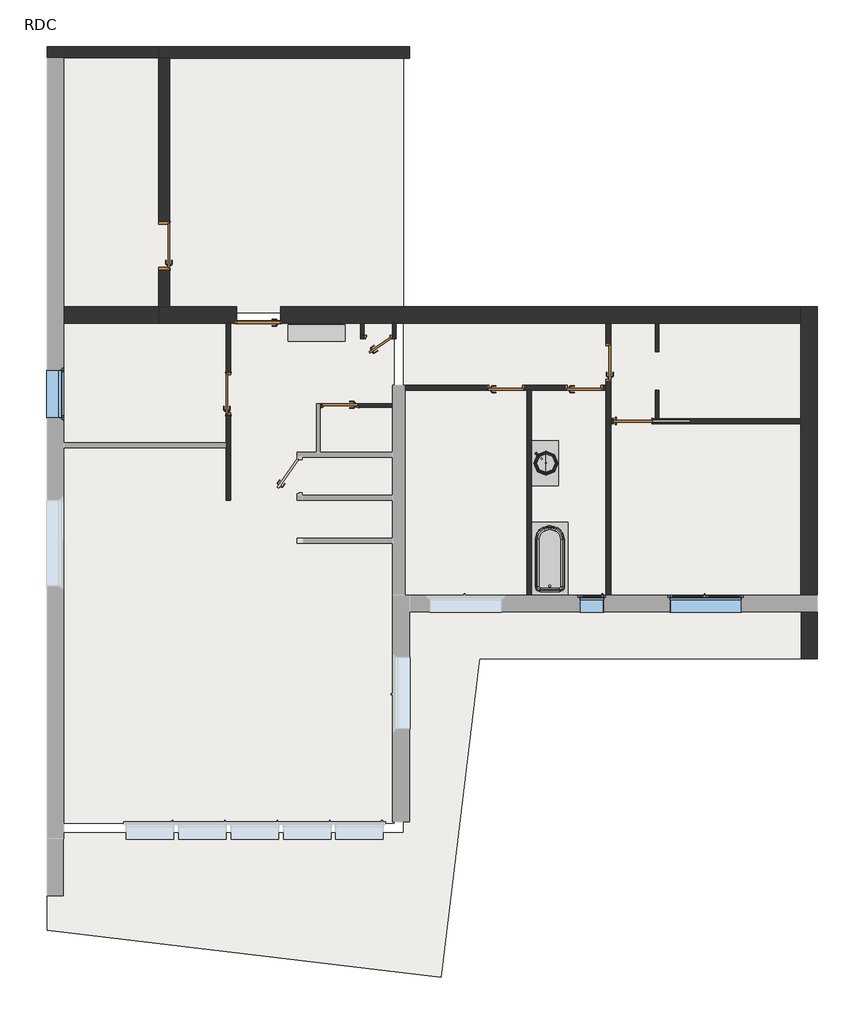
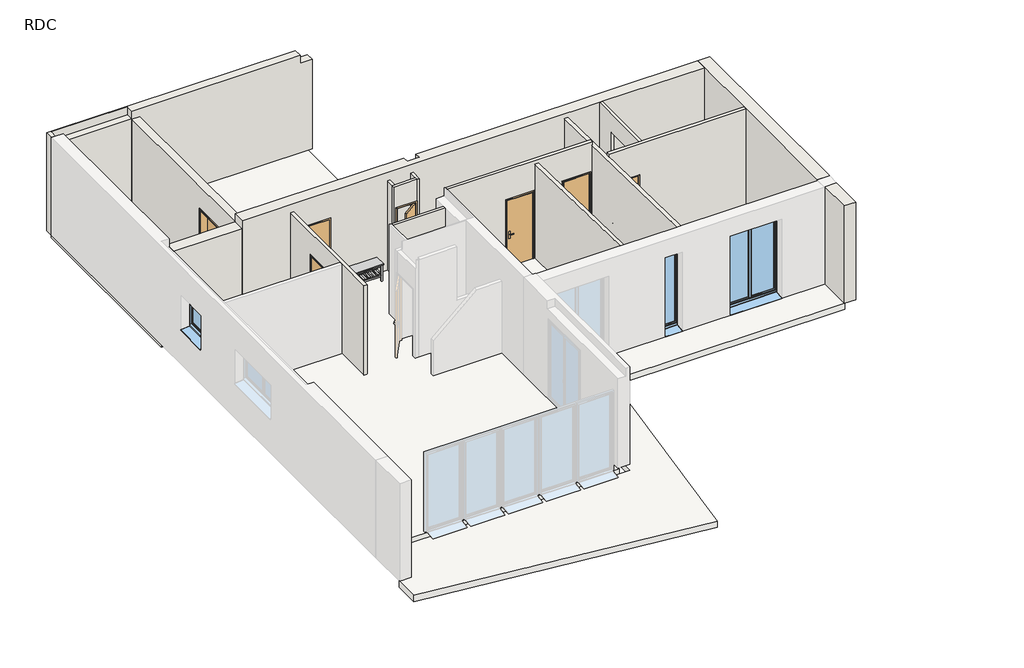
# One storey, part 2 of 2: 17 walls, 9 doors, 3 slabs, 3 windows, 2 flow terminals, 2 furniture elements.
"""IFC4 building model written with IfcOpenShell, lengths in millimetres."""

from ifc_helpers import new_model, si_unit, frame, origin, origin_with_axes, place, context, project, spatial, polyline, outline, extrude, faceted_brep, transform, mapped, element, save
from components import door_41a9e6d8, door_0_80m_x_2_04m_e0b4653d, int_simple_pp_0_53m_x_2_04m_9d17cb83, int_simple_pp_0_73m_x_2_04m_359deddd, int_simple_pp_0_73m_x_2_04m_ba43af2d, int_simple_pp_0_83m_x_2_04m_727c9c46, int_simple_pp_0_93m_x_2_04m_3c3404e0, flow_terminal_414a0167, baignoire_rectangulaire_mur_baignoire_rectangulaire_mur_52e2cdf1, furniture_1200_x_350_x_530_mm_359cf0c6, furniture_900mm_0b803dc7, window_0_50m_x_2_40m_2195513b, window_1_vantail_droit_1_00m_x_1_00m_58547b41, window_1_50m_x_2_40m_e69f112c

model = new_model("IFC4")

# Units and contexts
model_context = context("Model", 3, world=origin())
ifc_project = project(units=[si_unit("LENGTHUNIT", "METRE", prefix="MILLI")], contexts=[model_context])

# Site, building, storey
site = spatial("IfcSite", under=ifc_project)
building = spatial("IfcBuilding", under=site)
storey = spatial("IfcBuildingStorey", under=building, Name="RDC", Elevation=0.0)

# Doors
placement = place(None, origin())
door_shape = door_41a9e6d8(model_context)
element("IfcDoor", 1, ObjectType="Porte d'entrée : PP Lisse (0.90 m x 2.15 m)", at=placement, inside=storey, context=model_context, shape_type="MappedRepresentation", body=[
    mapped(door_shape, transform((-3541.697342, 2229.9574199, 0.0), x_axis=(-1.0, 0.0, 0.0), y_axis=(0.0, -1.0, 0.0), z_axis=(0.0, 0.0, 1.0))),
])
door_0_80m_x_2_04m_shape = door_0_80m_x_2_04m_e0b4653d(model_context)
element("IfcDoor", 2, ObjectType="Coulissante - Encastrée : 0.80m x 2.04m", at=placement, inside=storey, context=model_context, shape_type="MappedRepresentation", body=[
    mapped(door_0_80m_x_2_04m_shape, transform((4300.2977717, -3.0065065, 0.0), x_axis=(-1.0, 0.0, 0.0), y_axis=(0.0, -1.0, 0.0), z_axis=(0.0, 0.0, 1.0))),
])
int_simple_pp_0_53m_x_2_04m_shape = int_simple_pp_0_53m_x_2_04m_9d17cb83(model_context)
element("IfcDoor", 3, ObjectType="Int. Simple : PP (0.53m x 2.04m)", at=placement, inside=storey, context=model_context, shape_type="MappedRepresentation", body=[
    mapped(int_simple_pp_0_53m_x_2_04m_shape, transform((-983.697342, 1771.8961022, 0.0), x_axis=(1.0, 0.0, 0.0), y_axis=(0.0, 1.0, 0.0), z_axis=(0.0, 0.0, 1.0))),
])
int_simple_pp_0_73m_x_2_04m_shape = int_simple_pp_0_73m_x_2_04m_359deddd(model_context)
element("IfcDoor", 4, ObjectType="Int. Simple : PP (0.73m x 2.04m)", at=placement, inside=storey, context=model_context, shape_type="MappedRepresentation", body=[
    mapped(int_simple_pp_0_73m_x_2_04m_shape, transform((-1856.697342, 335.8961022, 0.0), x_axis=(-1.0, 0.0, 0.0), y_axis=(0.0, -1.0, 0.0), z_axis=(0.0, 0.0, 1.0))),
])
int_simple_pp_0_73m_x_2_04m_2_shape = int_simple_pp_0_73m_x_2_04m_ba43af2d(model_context)
element("IfcDoor", 5, ObjectType="Int. Simple : PP (0.73m x 2.04m)", at=placement, inside=storey, context=model_context, shape_type="MappedRepresentation", body=[
    mapped(int_simple_pp_0_73m_x_2_04m_2_shape, transform((1689.302658, 707.8961022, 0.0), x_axis=(1.0, 0.0, 0.0), y_axis=(0.0, 1.0, 0.0), z_axis=(0.0, 0.0, 1.0))),
])
element("IfcDoor", 6, ObjectType="Int. Simple : PP (0.73m x 2.04m)", at=placement, inside=storey, context=model_context, shape_type="MappedRepresentation", body=[
    mapped(int_simple_pp_0_73m_x_2_04m_2_shape, transform((3329.302658, 707.8961022, 0.0), x_axis=(1.0, 0.0, 0.0), y_axis=(0.0, 1.0, 0.0), z_axis=(0.0, 0.0, 1.0))),
])
element("IfcDoor", 7, ObjectType="Int. Simple : PP (0.73m x 2.04m)", at=placement, inside=storey, context=model_context, shape_type="MappedRepresentation", body=[
    mapped(int_simple_pp_0_73m_x_2_04m_2_shape, transform((3804.302658, 1272.8961022, 0.0), x_axis=(0.0, 1.0, 0.0), y_axis=(-1.0, 0.0, 0.0), z_axis=(0.0, 0.0, 1.0))),
])
int_simple_pp_0_83m_x_2_04m_shape = int_simple_pp_0_83m_x_2_04m_727c9c46(model_context)
element("IfcDoor", 8, ObjectType="Int. Simple : PP (0.83m x 2.04m)", at=placement, inside=storey, context=model_context, shape_type="MappedRepresentation", body=[
    mapped(int_simple_pp_0_83m_x_2_04m_shape, transform((-4161.697342, 614.9267611, 0.0), x_axis=(0.0, 1.0, 0.0), y_axis=(-1.0, 0.0, 0.0), z_axis=(0.0, 0.0, 1.0))),
])
int_simple_pp_0_93m_x_2_04m_shape = int_simple_pp_0_93m_x_2_04m_3c3404e0(model_context)
element("IfcDoor", 9, ObjectType="Int. Simple : PP (0.93m x 2.04m)", at=placement, inside=storey, context=model_context, shape_type="MappedRepresentation", body=[
    mapped(int_simple_pp_0_93m_x_2_04m_shape, transform((-5501.5193778, 3719.9574199, 0.0), x_axis=(0.0, 1.0, 0.0), y_axis=(-1.0, 0.0, 0.0), z_axis=(0.0, 0.0, 1.0))),
])

# Flow terminals
flow_terminal_shape = flow_terminal_414a0167(model_context)
element("IfcFlowTerminal", 10, ObjectType="Lavabo moderne : Lavabo moderne", at=placement, inside=storey, context=model_context, shape_type="MappedRepresentation", body=[
    mapped(flow_terminal_shape, transform((2194.302658, -893.8262703, 740.0), x_axis=(0.0, 1.0, 0.0), y_axis=(-1.0, 0.0, 0.0), z_axis=(0.0, 0.0, 1.0))),
])
baignoire_rectangulaire_mur_baignoire_rectangulaire_mur_shape = baignoire_rectangulaire_mur_baignoire_rectangulaire_mur_52e2cdf1(model_context)
element("IfcFlowTerminal", 11, ObjectType="Baignoire rectangulaire - Mur : Baignoire rectangulaire - Mur", at=placement, inside=storey, context=model_context, shape_type="MappedRepresentation", body=[
    mapped(baignoire_rectangulaire_mur_baignoire_rectangulaire_mur_shape, transform((2144.302658, -2524.4396113, 0.0), x_axis=(0.0, 1.0, 0.0), y_axis=(-1.0, 0.0, 0.0), z_axis=(0.0, 0.0, 1.0))),
])

# Furniture
furniture_1200_x_350_x_530_mm_shape = furniture_1200_x_350_x_530_mm_359cf0c6(model_context)
element("IfcFurniture", 12, ObjectType="Banc : 1200 x 350 x 530 mm", at=placement, inside=storey, context=model_context, shape_type="MappedRepresentation", body=[
    mapped(furniture_1200_x_350_x_530_mm_shape, transform((-2313.697342, 2039.796778, 0.0), x_axis=(1.0, 0.0, 0.0), y_axis=(0.0, 1.0, 0.0), z_axis=(0.0, 0.0, 1.0))),
])
furniture_900mm_shape = furniture_900mm_0b803dc7(model_context)
element("IfcFurniture", 13, ObjectType="Meuble sous lavabo - Porte simple et 2 tiroirs : 900mm", at=placement, inside=storey, context=model_context, shape_type="MappedRepresentation", body=[
    mapped(furniture_900mm_shape, transform((2194.302658, -963.9141086, 0.0), x_axis=(0.0, 1.0, 0.0), y_axis=(-1.0, 0.0, 0.0), z_axis=(0.0, 0.0, 1.0))),
])

# Slabs
element("IfcSlab", 14, ObjectType="Dalle en béton + Isolant", at=placement, inside=storey, context=model_context, shape_type="SweptSolid", body=[
    extrude(outline(polyline([(7863.302658, -3665.0425801), (-486.697342, -3665.0425801), (-486.697342, 2084.9574199), (7863.302658, 2084.9574199), (7863.302658, -3665.0425801)])), frame((0.0, 0.0, -360.0), z_axis=(0.0, 0.0, 1.0), x_axis=(1.0, 0.0, 0.0)), (0.0, 0.0, 1.0), 360.0),
    extrude(outline(polyline([(-7636.697342, -8415.0425801), (-7636.697342, 2084.9574199), (-686.697342, 2084.9574199), (-686.697342, -8415.0425801), (-7636.697342, -8415.0425801)])), frame((0.0, 0.0, -360.0), z_axis=(0.0, 0.0, 1.0), x_axis=(1.0, 0.0, 0.0)), (0.0, 0.0, 1.0), 360.0),
])
element("IfcSlab", 15, ObjectType="Dalle en béton", at=placement, inside=storey, context=model_context, shape_type="Brep", body=[
    faceted_brep([(-486.697342, 7834.9574199, -250.0), (-486.697342, 2284.9574199, -250.0), (-686.697342, 2284.9574199, -250.0), (-7636.697342, 2284.9574199, -250.0), (-7836.697342, 2284.9574199, -250.0), (-7836.697342, 7834.9574199, -250.0), (-7636.697342, 7834.9574199, -250.0), (-686.697342, 7834.9574199, -250.0), (-486.697342, 7834.9574199, 0.0), (-7836.697342, 7834.9574199, 0.0), (-7836.697342, 2284.9574199, 0.0), (-7636.697342, 2284.9574199, 0.0), (-686.697342, 2284.9574199, 0.0), (-486.697342, 2284.9574199, 0.0)], [[[0, 1, 2, 3, 4, 5, 6, 7]], [[8, 9, 10, 11, 12, 13]], [[1, 0, 8, 13]], [[4, 3, 2, 1, 13, 12, 11, 10]], [[5, 4, 10, 9]], [[0, 7, 6, 5, 9, 8]]]),
])
element("IfcSlab", 16, ObjectType="Terrasse", at=placement, inside=storey, context=model_context, shape_type="SweptSolid", body=[
    extrude(outline(polyline([(7863.302658, -3865.0425801), (7863.302658, -4967.1038978), (1099.5646631, -4967.1038978), (296.1534738, -11641.8526297), (-7957.697342, -10648.3716214), (-7957.697342, -9912.1038978), (-7636.697342, -9912.1038978), (-7636.697342, -8615.0425801), (-486.697342, -8615.0425801), (-486.697342, -3865.0425801), (7863.302658, -3865.0425801)])), frame((0.0, 0.0, -190.0), z_axis=(0.0, 0.0, 1.0), x_axis=(1.0, 0.0, 0.0)), (0.0, 0.0, 1.0), 190.0),
])

# Walls
element("IfcWall", 17, ObjectType="Ext. Bardage Bois + Isolant + Béton + Finition", at=placement, inside=storey, context=model_context, shape_type="Brep", body=[
    faceted_brep([(8183.302658, -3635.0425801, 0.0), (8183.302658, 2404.9574199, 0.0), (8183.302658, 2404.9574199, 3000.0), (8183.302658, -3635.0425801, 3000.0), (7833.302658, -3635.0425801, 0.0), (7833.302658, -3635.0425801, 2975.3587736), (7833.302658, -3635.0425801, 3000.0), (7833.302658, -40.1038978, 3000.0), (7833.302658, 59.8961022, 3000.0), (7833.302658, 2054.9574199, 3000.0), (7833.302658, 2404.9574199, 3000.0), (7833.302658, 2404.9574199, 0.0), (7833.302658, 2054.9574199, 0.0), (7833.302658, 59.8961022, 0.0), (7833.302658, -40.1038978, 0.0)], [[[0, 1, 2, 3]], [[4, 5, 6, 7, 8, 9, 10, 11, 12, 13, 14]], [[1, 0, 4, 14, 13, 12, 11]], [[3, 2, 10, 9, 8, 7, 6]], [[0, 3, 6, 5, 4]], [[2, 1, 11, 10]]]),
])
element("IfcWall", 18, ObjectType="Ext. Bardage Bois + Isolant + Béton + Finition", at=placement, inside=storey, context=model_context, shape_type="Brep", body=[
    faceted_brep([(7833.302658, 2404.9574199, 3000.0), (7833.302658, 2404.9574199, 0.0), (-3071.697342, 2404.9574199, 0.0), (-3071.697342, 2404.9574199, 2160.0), (-3991.697342, 2404.9574199, 2160.0), (-3991.697342, 2404.9574199, 0.0), (-5386.5193778, 2404.9574199, 0.0), (-5616.5193778, 2404.9574199, 0.0), (-5616.5193778, 2404.9574199, 2750.0), (-5616.5193778, 2404.9574199, 3000.0), (-716.697342, 2404.9574199, 3000.0), (-716.697342, 2404.9574199, 2750.0), (-366.697342, 2404.9574199, 2750.0), (-366.697342, 2404.9574199, 3000.0), (7833.302658, 2054.9574199, 3000.0), (4856.302658, 2054.9574199, 3000.0), (4784.302658, 2054.9574199, 3000.0), (-366.697342, 2054.9574199, 3000.0), (-5616.5193778, 2054.9574199, 3000.0), (-5616.5193778, 2054.9574199, 2750.0), (-5616.5193778, 2054.9574199, 0.0), (-4211.697342, 2054.9574199, 0.0), (-4111.697342, 2054.9574199, 0.0), (-4021.697342, 2054.9574199, 0.0), (-4021.697342, 2054.9574199, 2190.0), (-3041.697342, 2054.9574199, 2190.0), (-3041.697342, 2054.9574199, 0.0), (-1392.697342, 2054.9574199, 0.0), (-1320.697342, 2054.9574199, 0.0), (-716.697342, 2054.9574199, 0.0), (-644.697342, 2054.9574199, 0.0), (3754.302658, 2054.9574199, 0.0), (3854.302658, 2054.9574199, 0.0), (4784.302658, 2054.9574199, 0.0), (4856.302658, 2054.9574199, 0.0), (7833.302658, 2054.9574199, 0.0), (-3041.697342, 2111.9574199, 0.0), (-3056.697342, 2111.9574199, 0.0), (-3056.697342, 2154.9574199, 0.0), (-3071.697342, 2154.9574199, 0.0), (-3991.697342, 2154.9574199, 0.0), (-4006.697342, 2154.9574199, 0.0), (-4006.697342, 2111.9574199, 0.0), (-4021.697342, 2111.9574199, 0.0), (-366.697342, 2229.9574199, 3000.0), (-716.697342, 2229.9574199, 3000.0), (-366.697342, 2229.9574199, 2750.0), (-716.697342, 2229.9574199, 2750.0), (-716.697342, 2284.9574199, 2750.0), (-486.697342, 2229.9574199, 2750.0), (-3071.697342, 2154.9574199, 2160.0), (-3991.697342, 2154.9574199, 2160.0), (-4006.697342, 2111.9574199, 2175.0), (-3056.697342, 2111.9574199, 2175.0), (-3041.697342, 2111.9574199, 2190.0), (-4021.697342, 2111.9574199, 2190.0), (-3056.697342, 2154.9574199, 2175.0), (-4006.697342, 2154.9574199, 2175.0)], [[[0, 1, 2, 3, 4, 5, 6, 7, 8, 9, 10, 11, 12, 13]], [[14, 15, 16, 17, 18, 19, 20, 21, 22, 23, 24, 25, 26, 27, 28, 29, 30, 31, 32, 33, 34, 35]], [[1, 35, 34, 33, 32, 31, 30, 29, 28, 27, 26, 36, 37, 38, 39, 2]], [[20, 7, 6, 5, 40, 41, 42, 43, 23, 22, 21]], [[18, 17, 16, 15, 14, 0, 13, 44, 45, 10, 9]], [[1, 0, 14, 35]], [[9, 8, 7, 20, 19, 18]], [[12, 46, 44, 13]], [[47, 48, 11, 10, 45]], [[47, 49, 46, 12, 11, 48]], [[50, 51, 4, 3]], [[51, 40, 5, 4]], [[39, 50, 3, 2]], [[42, 52, 53, 37, 36, 54, 55, 43]], [[54, 36, 26, 25]], [[55, 54, 25, 24]], [[43, 55, 24, 23]], [[37, 53, 56, 38]], [[51, 50, 39, 38, 56, 57, 41, 40]], [[53, 52, 57, 56]], [[52, 42, 41, 57]], [[46, 49, 47, 45, 44]]]),
])
element("IfcWall", 19, ObjectType="Int. Plâtre 100 mm", at=placement, inside=storey, context=model_context, shape_type="Brep", body=[
    faceted_brep([(-4111.697342, -1645.1038978, 2750.0), (-4111.697342, -1645.1038978, 0.0), (-4111.697342, 129.9267611, 0.0), (-4111.697342, 129.9267611, 2075.0), (-4111.697342, 1029.9267611, 2075.0), (-4111.697342, 1029.9267611, 0.0), (-4111.697342, 2054.9574199, 0.0), (-4111.697342, 2054.9574199, 2750.0), (-4211.697342, -1645.1038978, 0.0), (-4211.697342, -1645.1038978, 2750.0), (-4211.697342, -545.0425801, 2750.0), (-4211.697342, -445.0425801, 2750.0), (-4211.697342, 2054.9574199, 2750.0), (-4211.697342, 2054.9574199, 0.0), (-4211.697342, 1029.9267611, 0.0), (-4211.697342, 1029.9267611, 2075.0), (-4211.697342, 129.9267611, 2075.0), (-4211.697342, 129.9267611, 0.0), (-4211.697342, -445.0425801, 0.0), (-4211.697342, -545.0425801, 0.0)], [[[0, 1, 2, 3, 4, 5, 6, 7]], [[8, 9, 10, 11, 12, 13, 14, 15, 16, 17, 18, 19]], [[1, 8, 19, 18, 17, 2]], [[13, 6, 5, 14]], [[1, 0, 9, 8]], [[7, 6, 13, 12]], [[0, 7, 12, 11, 10, 9]], [[4, 15, 14, 5]], [[15, 4, 3, 16]], [[16, 3, 2, 17]]]),
])
element("IfcWall", 20, ObjectType="Int. Plâtre 100 mm", at=placement, inside=storey, context=model_context, shape_type="Brep", body=[
    faceted_brep([(3754.302658, 657.8961022, 3000.0), (-456.697342, 657.8961022, 3000.0), (-456.697342, 657.8961022, 0.0), (1254.302658, 657.8961022, 0.0), (1254.302658, 657.8961022, 2075.0), (2054.302658, 657.8961022, 2075.0), (2054.302658, 657.8961022, 0.0), (2094.302658, 657.8961022, 0.0), (2194.302658, 657.8961022, 0.0), (2894.302658, 657.8961022, 0.0), (2894.302658, 657.8961022, 2075.0), (3694.302658, 657.8961022, 2075.0), (3694.302658, 657.8961022, 0.0), (3754.302658, 657.8961022, 0.0), (-456.697342, 757.8961022, 3000.0), (3754.302658, 757.8961022, 3000.0), (3754.302658, 757.8961022, 0.0), (3694.302658, 757.8961022, 0.0), (3694.302658, 757.8961022, 2075.0), (2894.302658, 757.8961022, 2075.0), (2894.302658, 757.8961022, 0.0), (2054.302658, 757.8961022, 0.0), (2054.302658, 757.8961022, 2075.0), (1254.302658, 757.8961022, 2075.0), (1254.302658, 757.8961022, 0.0), (-456.697342, 757.8961022, 0.0)], [[[0, 1, 2, 3, 4, 5, 6, 7, 8, 9, 10, 11, 12, 13]], [[14, 15, 16, 17, 18, 19, 20, 21, 22, 23, 24, 25]], [[16, 13, 12, 17]], [[2, 25, 24, 3]], [[6, 21, 20, 9, 8, 7]], [[1, 0, 15, 14]], [[0, 13, 16, 15]], [[2, 1, 14, 25]], [[5, 22, 21, 6]], [[22, 5, 4, 23]], [[23, 4, 3, 24]], [[11, 18, 17, 12]], [[18, 11, 10, 19]], [[19, 10, 9, 20]]]),
])
element("IfcWall", 21, ObjectType="Int. Plâtre 100 mm", at=placement, inside=storey, context=model_context, shape_type="Brep", body=[
    faceted_brep([(3754.302658, -3635.0425801, 0.0), (3754.302658, -3635.0425801, 35.0), (3754.302658, -3635.0425801, 2485.0), (3754.302658, -3635.0425801, 2975.3587736), (3754.302658, 2054.9574199, 2861.5587736), (3754.302658, 2054.9574199, 0.0), (3754.302658, 1637.8961022, 0.0), (3754.302658, 1637.8961022, 2075.0), (3754.302658, 837.8961022, 2075.0), (3754.302658, 837.8961022, 0.0), (3754.302658, 757.8961022, 0.0), (3754.302658, 657.8961022, 0.0), (3854.302658, -3635.0425801, 2975.3587736), (3854.302658, -3635.0425801, 0.0), (3854.302658, -40.1038978, 0.0), (3854.302658, 59.8961022, 0.0), (3854.302658, 837.8961022, 0.0), (3854.302658, 837.8961022, 2075.0), (3854.302658, 1637.8961022, 2075.0), (3854.302658, 1637.8961022, 0.0), (3854.302658, 2054.9574199, 0.0), (3854.302658, 2054.9574199, 2861.5587736)], [[[0, 1, 2, 3, 4, 5, 6, 7, 8, 9, 10, 11]], [[12, 13, 14, 15, 16, 17, 18, 19, 20, 21]], [[5, 20, 19, 6]], [[13, 0, 11, 10, 9, 16, 15, 14]], [[3, 2, 1, 0, 13, 12]], [[5, 4, 21, 20]], [[18, 7, 6, 19]], [[7, 18, 17, 8]], [[8, 17, 16, 9]], [[4, 3, 12, 21]]]),
])
element("IfcWall", 22, ObjectType="Int. Plâtre 100 mm", at=placement, inside=storey, context=model_context, shape_type="Brep", body=[
    faceted_brep([(3854.302658, 59.8961022, 3000.0), (4784.302658, 59.8961022, 3000.0), (4856.302658, 59.8961022, 3000.0), (7833.302658, 59.8961022, 3000.0), (7833.302658, 59.8961022, 0.0), (4856.302658, 59.8961022, 0.0), (4784.302658, 59.8961022, 0.0), (4724.302658, 59.8961022, 0.0), (4724.302658, 59.8961022, 2055.0), (3894.302658, 59.8961022, 2055.0), (3894.302658, 59.8961022, 0.0), (3854.302658, 59.8961022, 0.0), (7833.302658, -40.1038978, 3000.0), (3854.302658, -40.1038978, 3000.0), (3854.302658, -40.1038978, 0.0), (3894.302658, -40.1038978, 0.0), (3894.302658, -40.1038978, 2055.0), (4724.302658, -40.1038978, 2055.0), (4724.302658, -40.1038978, 0.0), (7833.302658, -40.1038978, 0.0), (4724.302658, -15.1038978, 0.0), (5524.302658, -15.1038978, 0.0), (5524.302658, 34.8961022, 0.0), (4724.302658, 34.8961022, 0.0), (4724.302658, 34.8961022, 2055.0), (5524.302658, 34.8961022, 2055.0), (5524.302658, -15.1038978, 2055.0), (4724.302658, -15.1038978, 2055.0)], [[[0, 1, 2, 3, 4, 5, 6, 7, 8, 9, 10, 11]], [[12, 13, 14, 15, 16, 17, 18, 19]], [[4, 19, 18, 20, 21, 22, 23, 7, 6, 5]], [[14, 11, 10, 15]], [[3, 2, 1, 0, 13, 12]], [[4, 3, 12, 19]], [[0, 11, 14, 13]], [[24, 25, 26, 27, 17, 16, 9, 8]], [[9, 16, 15, 10]], [[23, 24, 8, 7]], [[25, 24, 23, 22]], [[26, 25, 22, 21]], [[27, 26, 21, 20]], [[27, 20, 18, 17]]]),
])
element("IfcWall", 23, ObjectType="Int. Plâtre 100 mm", at=placement, inside=storey, context=model_context, shape_type="SweptSolid", body=[
    extrude(outline(polyline([(657.8961022, 0.0), (-3635.0425801, 0.0), (-3635.0425801, 2975.3587736), (657.8961022, 2889.5), (657.8961022, 0.0)])), frame((2094.302658, 0.0, 0.0), z_axis=(1.0, 0.0, 0.0), x_axis=(0.0, 1.0, 0.0)), (0.0, 0.0, 1.0), 100.0),
])
element("IfcWall", 24, ObjectType="Int. Plâtre 70 mm", at=placement, inside=storey, context=model_context, shape_type="SweptSolid", body=[
    extrude(outline(polyline([(2750.0, -2241.697342), (0.0, -2241.697342), (0.0, -2221.697342), (2075.0, -2221.697342), (2075.0, -1421.697342), (0.0, -1421.697342), (0.0, -716.697342), (2750.0, -716.697342), (2750.0, -2241.697342)])), frame((0.0, 299.8961022, 0.0), z_axis=(0.0, 1.0, 0.0), x_axis=(0.0, 0.0, 1.0)), (0.0, 0.0, 1.0), 72.0),
])
element("IfcWall", 25, ObjectType="Int. Plâtre 70 mm", at=placement, inside=storey, context=model_context, shape_type="SweptSolid", body=[
    extrude(outline(polyline([(59.8961022, 0.0), (59.8961022, 3000.0), (2054.9574199, 3000.0), (2054.9574199, 0.0), (1463.4416882, 0.0), (1463.4416882, 2438.4), (659.8961022, 2438.4), (659.8961022, 0.0), (59.8961022, 0.0)])), frame((4784.302658, 0.0, 0.0), z_axis=(1.0, 0.0, 0.0), x_axis=(0.0, 1.0, 0.0)), (0.0, 0.0, 1.0), 72.0),
])
element("IfcWall", 26, ObjectType="Int. Plâtre 70 mm", at=placement, inside=storey, context=model_context, shape_type="Brep", body=[
    faceted_brep([(-716.697342, 2054.9574199, 0.0), (-716.697342, 1807.8961022, 0.0), (-716.697342, 1735.8961022, 0.0), (-716.697342, 1735.8961022, 2750.0), (-716.697342, 1807.8961022, 2750.0), (-716.697342, 2054.9574199, 2750.0), (-644.697342, 2054.9574199, 0.0), (-644.697342, 2054.9574199, 2750.0), (-644.697342, 1735.8961022, 2750.0), (-644.697342, 1735.8961022, 0.0)], [[[0, 1, 2, 3, 4, 5]], [[6, 7, 8, 9]], [[2, 1, 0, 6, 9]], [[0, 5, 7, 6]], [[3, 2, 9, 8]], [[5, 4, 3, 8, 7]]]),
])
element("IfcWall", 27, ObjectType="Int. Plâtre 70 mm", at=placement, inside=storey, context=model_context, shape_type="Brep", body=[
    faceted_brep([(-716.697342, 1807.8961022, 2750.0), (-716.697342, 1807.8961022, 0.0), (-718.697342, 1807.8961022, 0.0), (-718.697342, 1807.8961022, 2075.0), (-1318.697342, 1807.8961022, 2075.0), (-1318.697342, 1807.8961022, 0.0), (-1320.697342, 1807.8961022, 0.0), (-1392.697342, 1807.8961022, 0.0), (-1392.697342, 1807.8961022, 2750.0), (-1320.697342, 1807.8961022, 2750.0), (-716.697342, 1735.8961022, 0.0), (-716.697342, 1735.8961022, 2750.0), (-1392.697342, 1735.8961022, 2750.0), (-1392.697342, 1735.8961022, 0.0), (-1318.697342, 1735.8961022, 0.0), (-1318.697342, 1735.8961022, 2075.0), (-718.697342, 1735.8961022, 2075.0), (-718.697342, 1735.8961022, 0.0)], [[[0, 1, 2, 3, 4, 5, 6, 7, 8, 9]], [[10, 11, 12, 13, 14, 15, 16, 17]], [[1, 10, 17, 2]], [[13, 7, 6, 5, 14]], [[1, 0, 11, 10]], [[8, 7, 13, 12]], [[0, 9, 8, 12, 11]], [[16, 3, 2, 17]], [[3, 16, 15, 4]], [[4, 15, 14, 5]]]),
])
element("IfcWall", 28, ObjectType="Int. Plâtre 70 mm", at=placement, inside=storey, context=model_context, shape_type="SweptSolid", body=[
    extrude(outline(polyline([(-1320.697342, 2054.9574199), (-1320.697342, 1807.8961022), (-1392.697342, 1807.8961022), (-1392.697342, 2054.9574199), (-1320.697342, 2054.9574199)])), origin_with_axes(), (0.0, 0.0, 1.0), 2750.0),
])
element("IfcWall", 29, ObjectType="Ext. Bardage Métal + Béton + Finition", at=placement, inside=storey, context=model_context, shape_type="SweptSolid", body=[
    extrude(outline(polyline([(7614.9574199, 0.0), (4184.9574199, 0.0), (4184.9574199, 2075.0), (3184.9574199, 2075.0), (3184.9574199, 0.0), (2404.9574199, 0.0), (2404.9574199, 2750.0), (7614.9574199, 2750.0), (7614.9574199, 0.0)])), frame((-5616.5193778, 0.0, 0.0), z_axis=(1.0, 0.0, 0.0), x_axis=(0.0, 1.0, 0.0)), (0.0, 0.0, 1.0), 230.0),
])
element("IfcWall", 30, ObjectType="Ext. Bardage Bois +  Béton + Bardage Métal", at=placement, inside=storey, context=model_context, shape_type="Brep", body=[
    faceted_brep([(-5616.5193778, 7614.9574199, 0.0), (-5386.5193778, 7614.9574199, 0.0), (-366.697342, 7614.9574199, 0.0), (-366.697342, 7614.9574199, 2750.0), (-716.697342, 7614.9574199, 2750.0), (-716.697342, 7614.9574199, 3000.0), (-5616.5193778, 7614.9574199, 3000.0), (-5616.5193778, 7614.9574199, 2750.0), (-366.697342, 7854.9574199, 0.0), (-5616.5193778, 7854.9574199, 0.0), (-5616.5193778, 7854.9574199, 3000.0), (-716.697342, 7854.9574199, 3000.0), (-716.697342, 7854.9574199, 2750.0), (-366.697342, 7854.9574199, 2750.0), (-5616.5193778, 7624.9574199, 0.0), (-5616.5193778, 7834.9574199, 3000.0), (-716.697342, 7624.9574199, 3000.0)], [[[0, 1, 2, 3, 4, 5, 6, 7]], [[8, 9, 10, 11, 12, 13]], [[2, 1, 0, 14, 9, 8]], [[2, 8, 13, 3]], [[10, 15, 6, 5, 16, 11]], [[0, 7, 6, 15, 10, 9, 14]], [[4, 12, 11, 16, 5]], [[12, 4, 3, 13]]]),
])
element("IfcWall", 31, ObjectType="Ext. Bardage Bois + Béton + Finition", at=placement, inside=storey, context=model_context, shape_type="Brep", body=[
    faceted_brep([(-7956.697342, 7624.9574199, 0.0), (-7606.697342, 7624.9574199, 0.0), (-5616.5193778, 7624.9574199, 0.0), (-5616.5193778, 7624.9574199, 2750.0), (-7836.697342, 7624.9574199, 2750.0), (-7836.697342, 7624.9574199, 3000.0), (-7956.697342, 7624.9574199, 3000.0), (-5616.5193778, 7854.9574199, 0.0), (-7956.697342, 7854.9574199, 0.0), (-7956.697342, 7854.9574199, 3000.0), (-7606.697342, 7854.9574199, 3000.0), (-5616.5193778, 7854.9574199, 3000.0), (-7836.697342, 7834.9574199, 3000.0), (-5616.5193778, 7834.9574199, 3000.0), (-5616.5193778, 7834.9574199, 2750.0), (-7836.697342, 7834.9574199, 2750.0)], [[[0, 1, 2, 3, 4, 5, 6]], [[7, 8, 9, 10, 11]], [[2, 1, 0, 8, 7]], [[11, 10, 9, 6, 5, 12, 13]], [[0, 6, 9, 8]], [[2, 7, 11, 13, 14, 3]], [[14, 15, 4, 3]], [[15, 12, 5, 4]], [[12, 15, 14, 13]]]),
])
element("IfcWall", 32, ObjectType="Ext. Bardage Bois + Isolant + Béton + Bardage Métal", at=placement, inside=storey, context=model_context, shape_type="Brep", body=[
    faceted_brep([(7843.302658, -3985.0425801, 0.0), (7843.302658, -4967.1038978, 0.0), (7843.302658, -4967.1038978, 3000.0), (7843.302658, -3985.0425801, 3000.0), (8183.302658, -3985.0425801, 0.0), (8183.302658, -3985.0425801, 3000.0), (8183.302658, -4867.1038978, 3000.0), (8183.302658, -4967.1038978, 3000.0), (8183.302658, -4967.1038978, 0.0)], [[[0, 1, 2, 3]], [[4, 5, 6, 7, 8]], [[1, 0, 4, 8]], [[2, 1, 8, 7]], [[3, 2, 7, 6, 5]], [[0, 3, 5, 4]]]),
])
element("IfcWall", 33, ObjectType="Int. Finition + Isolant + Béton + Finition", at=placement, inside=storey, context=model_context, shape_type="Brep", body=[
    faceted_brep([(-5616.5193778, 2404.9574199, 0.0), (-7606.697342, 2404.9574199, 0.0), (-7606.697342, 2404.9574199, 2750.0), (-5616.5193778, 2404.9574199, 2750.0), (-7606.697342, 2054.9574199, 0.0), (-5616.5193778, 2054.9574199, 0.0), (-5616.5193778, 2054.9574199, 2750.0), (-7606.697342, 2054.9574199, 2750.0), (-7606.697342, 2284.9574199, 2750.0)], [[[0, 1, 2, 3]], [[4, 5, 6, 7]], [[1, 0, 5, 4]], [[1, 4, 7, 8, 2]], [[5, 0, 3, 6]], [[7, 6, 3, 2, 8]]]),
])

# Windows
window_0_50m_x_2_40m_shape = window_0_50m_x_2_40m_2195513b(model_context)
element("IfcWindow", 34, ObjectType="PF 1 Vantail - Droite : 0.50m x 2.40m", at=placement, inside=storey, context=model_context, shape_type="MappedRepresentation", body=[
    mapped(window_0_50m_x_2_40m_shape, transform((3454.302658, -3810.0425801, 0.0), x_axis=(-1.0, 0.0, 0.0), y_axis=(0.0, -1.0, 0.0), z_axis=(0.0, 0.0, 1.0))),
])
window_1_vantail_droit_1_00m_x_1_00m_shape = window_1_vantail_droit_1_00m_x_1_00m_58547b41(model_context)
element("IfcWindow", 35, ObjectType="1 Vantail - Droit : 1.00m x 1.00m", at=placement, inside=storey, context=model_context, shape_type="MappedRepresentation", body=[
    mapped(window_1_vantail_droit_1_00m_x_1_00m_shape, transform((-7781.697342, 579.9267611, 300.0), x_axis=(0.0, 1.0, 0.0), y_axis=(-1.0, 0.0, 0.0), z_axis=(0.0, 0.0, 1.0))),
])
window_1_50m_x_2_40m_shape = window_1_50m_x_2_40m_e69f112c(model_context)
element("IfcWindow", 36, ObjectType="PF 2 Vantaux - Droits : 1.50m x 2.40m", at=placement, inside=storey, context=model_context, shape_type="MappedRepresentation", body=[
    mapped(window_1_50m_x_2_40m_shape, transform((5843.802658, -3810.0425801, 0.0), x_axis=(-1.0, 0.0, 0.0), y_axis=(0.0, -1.0, 0.0), z_axis=(0.0, 0.0, 1.0))),
])

save(model, "model.ifc")
